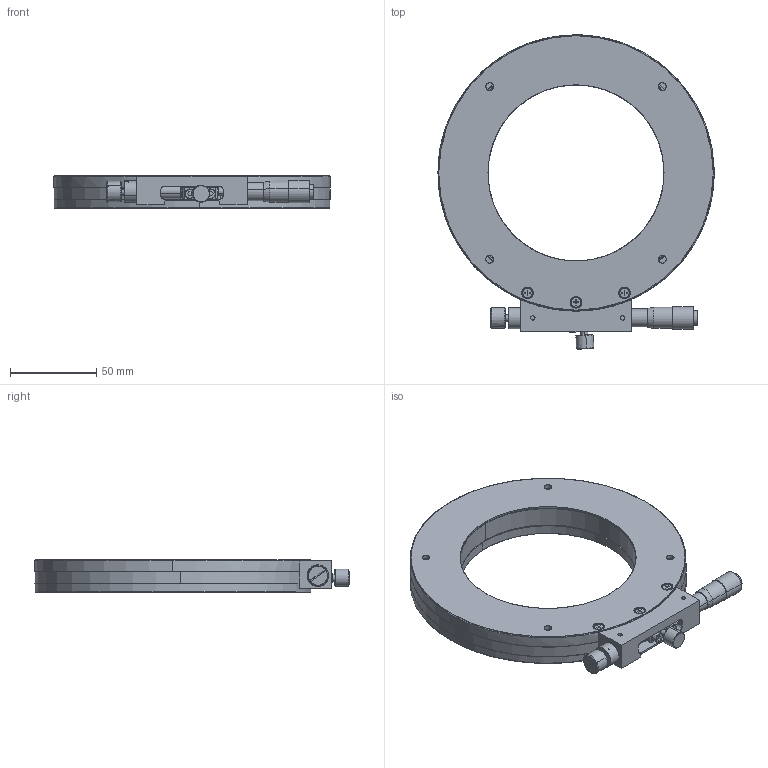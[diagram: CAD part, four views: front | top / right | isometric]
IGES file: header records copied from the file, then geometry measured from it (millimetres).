
Start section: SolidWorks IGES file using analytic representation for surfaces
Global section: file name: C:\Users\dubin\Desktop\0507\PT-SR160（根据三维和样本所画）\PT-SR160（1）\PT-SR160.IGS; native system: SolidWorks 2017; preprocessor: SolidWorks 2017; author: PDV; date: 230507.164840; units: millimetre
Bounding box: 160 x 182.11 x 19 mm (x, y, z)
Surface area: 136903.2 mm2 (no closed solid volume)
Topology: 0 solids, 0 shells, 1041 faces, 16099 edges, 16067 vertices
Faces by surface type: bspline 634, revolution 407
